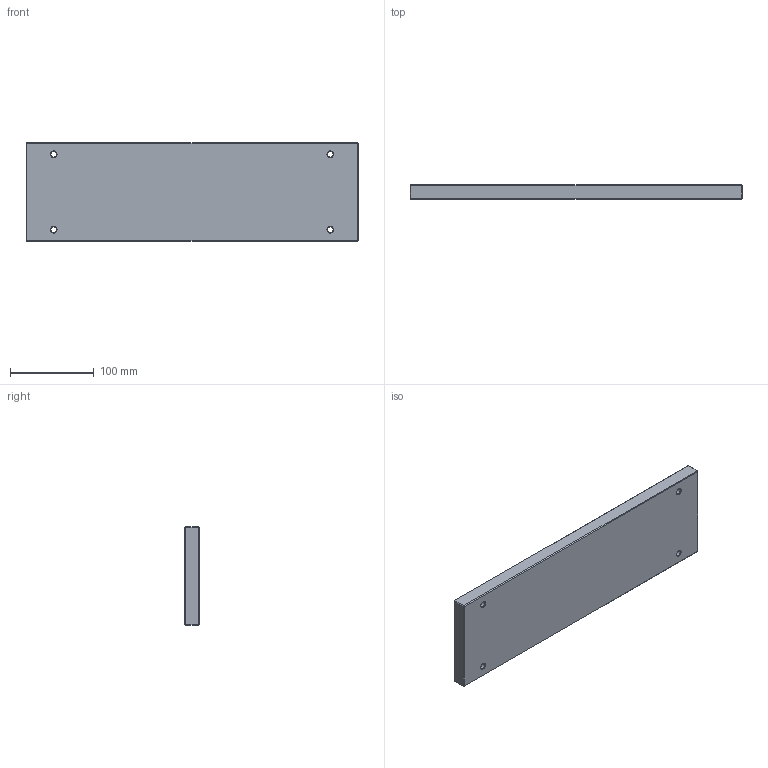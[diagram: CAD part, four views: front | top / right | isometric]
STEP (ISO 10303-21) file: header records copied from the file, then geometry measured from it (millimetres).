
FILE_DESCRIPTION(/* description */ ('STEP AP214'),/* implementation_level */ '2;1');
FILE_NAME(/* name */ 'KM0622463960171730',/* time_stamp */ '2026-07-15T12:10:05+02:00',/* author */ ('License CC BY-ND 4.0'),/* organization */ ('CADENAS'),/* preprocessor_version */ 'ST-DEVELOPER v20',/* originating_system */ 'PARTsolutions',/* authorisation */ ' ');
FILE_SCHEMA (('AUTOMOTIVE_DESIGN {1 0 10303 214 3 1 1}'));
Length unit declared in the file: millimetre
Products named in the file (1): KM0622463960171730
Bounding box: 396 x 17 x 118 mm (x, y, z)
Volume: 790919.5 mm3; surface area: 110767.3 mm2
Topology: 1 solids, 1 shells, 30 faces, 76 edges, 48 vertices
Faces by surface type: plane 18, cone 8, cylinder 4
Full cylindrical faces by diameter (mm): 6.647 x4
Entity records: 878 total; most frequent: CARTESIAN_POINT 143, DIRECTION 142, ORIENTED_EDGE 128, EDGE_CURVE 64, EDGE_LOOP 50, FACE_BOUND 50, VERTEX_POINT 48, LINE 48
